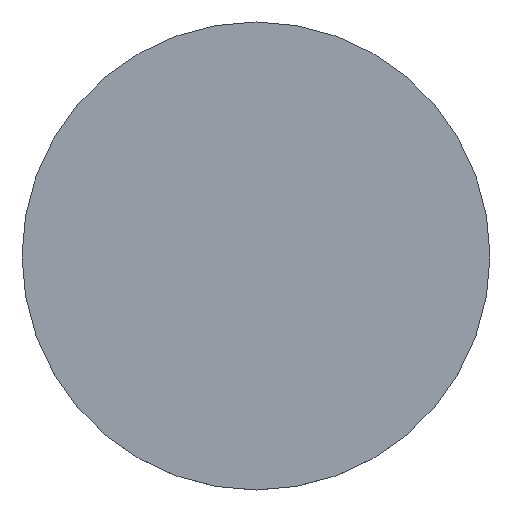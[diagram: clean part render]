
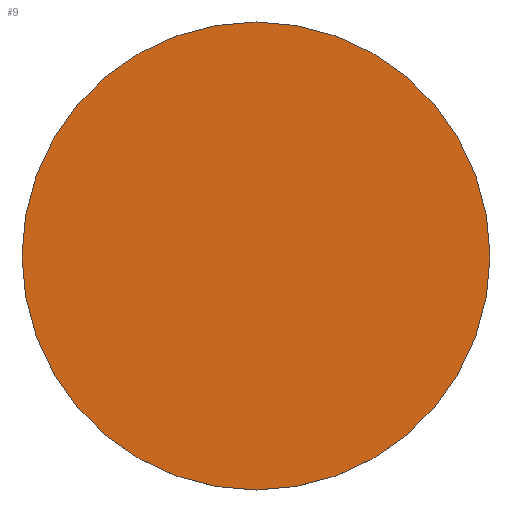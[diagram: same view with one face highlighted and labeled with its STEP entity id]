
A CAD part, top view. The second image highlights one B-rep face of the part: STEP entity #9.
In plain terms, the highlighted planar face has unit normal (0, 0, 1).
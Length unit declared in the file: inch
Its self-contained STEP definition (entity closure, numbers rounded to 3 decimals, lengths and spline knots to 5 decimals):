
#9 = ADVANCED_FACE ( 'NONE', ( #215 ), #223, .T. ) ;
#11 = EDGE_CURVE ( 'NONE', #163, #164, #61, .T. ) ;
#13 = EDGE_CURVE ( 'NONE', #164, #163, #73, .T. ) ;
#59 = AXIS2_PLACEMENT_3D ( 'NONE', #176, #227, #121 ) ;
#61 = CIRCLE ( 'NONE', #59, 0.1 ) ;
#64 = AXIS2_PLACEMENT_3D ( 'NONE', #92, #93, #94 ) ;
#73 = CIRCLE ( 'NONE', #64, 0.1 ) ;
#76 = AXIS2_PLACEMENT_3D ( 'NONE', #210, #224, #225 ) ;
#92 = CARTESIAN_POINT ( 'NONE',  ( 0., 0., 0.242 ) ) ;
#93 = DIRECTION ( 'NONE',  ( 0., 0., 1. ) ) ;
#94 = DIRECTION ( 'NONE',  ( 1., 0., 0. ) ) ;
#104 = ORIENTED_EDGE ( 'NONE', *, *, #13, .T. ) ;
#121 = DIRECTION ( 'NONE',  ( 1., 0., 0. ) ) ;
#126 = ORIENTED_EDGE ( 'NONE', *, *, #11, .T. ) ;
#152 = EDGE_LOOP ( 'NONE', ( #104, #126 ) ) ;
#163 = VERTEX_POINT ( 'NONE', #234 ) ;
#164 = VERTEX_POINT ( 'NONE', #245 ) ;
#176 = CARTESIAN_POINT ( 'NONE',  ( 0., 0., 0.242 ) ) ;
#210 = CARTESIAN_POINT ( 'NONE',  ( 0., 0., 0.242 ) ) ;
#215 = FACE_OUTER_BOUND ( 'NONE', #152, .T. ) ;
#223 = PLANE ( 'NONE',  #76 ) ;
#224 = DIRECTION ( 'NONE',  ( 0., 0., 1. ) ) ;
#225 = DIRECTION ( 'NONE',  ( 1., 0., 0. ) ) ;
#227 = DIRECTION ( 'NONE',  ( 0., 0., 1. ) ) ;
#234 = CARTESIAN_POINT ( 'NONE',  ( 0.1, 0., 0.242 ) ) ;
#245 = CARTESIAN_POINT ( 'NONE',  ( -0.1, 0., 0.242 ) ) ;
